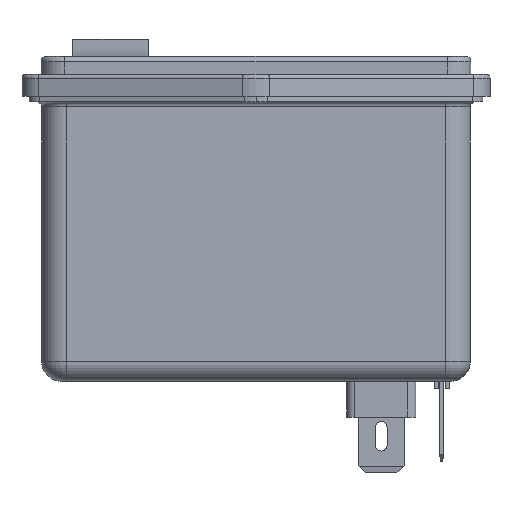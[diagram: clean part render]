
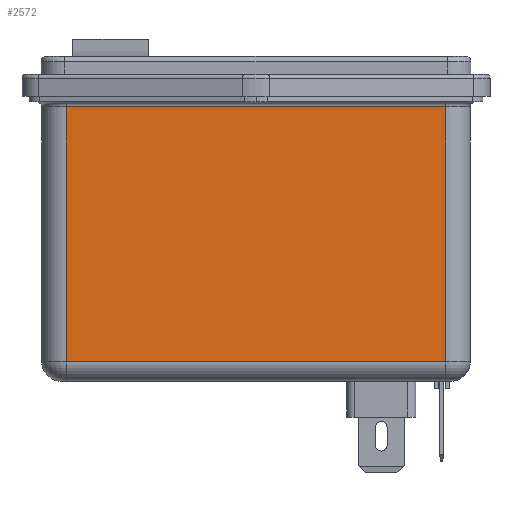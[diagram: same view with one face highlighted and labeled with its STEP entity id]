
A CAD part, left-side view. The second image highlights one B-rep face of the part: STEP entity #2572.
In plain terms, the highlighted planar face has unit normal (-1, 0, 0).
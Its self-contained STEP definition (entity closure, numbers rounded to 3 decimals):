
#2572 = ADVANCED_FACE ( 'NONE', ( #9399 ), #9398, .T. ) ;
#2573 = EDGE_LOOP ( 'NONE', ( #2574, #2578, #2581, #2642 ) ) ;
#2574 = ORIENTED_EDGE ( 'NONE', *, *, #2575, .T. ) ;
#2575 = EDGE_CURVE ( 'NONE', #2576, #2577, #9396, .T. ) ;
#2576 = VERTEX_POINT ( 'NONE', #9451 ) ;
#2577 = VERTEX_POINT ( 'NONE', #9450 ) ;
#2578 = ORIENTED_EDGE ( 'NONE', *, *, #2579, .T. ) ;
#2579 = EDGE_CURVE ( 'NONE', #2577, #2580, #9449, .T. ) ;
#2580 = VERTEX_POINT ( 'NONE', #9445 ) ;
#2581 = ORIENTED_EDGE ( 'NONE', *, *, #2641, .T. ) ;
#2582 = VERTEX_POINT ( 'NONE', #9444 ) ;
#2641 = EDGE_CURVE ( 'NONE', #2580, #2582, #9538, .T. ) ;
#2642 = ORIENTED_EDGE ( 'NONE', *, *, #2643, .T. ) ;
#2643 = EDGE_CURVE ( 'NONE', #2582, #2576, #9534, .T. ) ;
#9392 = CARTESIAN_POINT ( 'NONE',  ( -14.4, -26.35, -38.8 ) ) ;
#9393 = DIRECTION ( 'NONE',  ( 0., -1., 0. ) ) ;
#9394 = DIRECTION ( 'NONE',  ( -1., 0., 0. ) ) ;
#9395 = AXIS2_PLACEMENT_3D ( 'NONE', #9397, #9394, #9393 ) ;
#9396 = LINE ( 'NONE', #9392, #9453 ) ;
#9397 = CARTESIAN_POINT ( 'NONE',  ( -14.4, 29.75, -38.8 ) ) ;
#9398 = PLANE ( 'NONE',  #9395 ) ;
#9399 = FACE_OUTER_BOUND ( 'NONE', #2573, .T. ) ;
#9444 = CARTESIAN_POINT ( 'NONE',  ( -14.4, 26.35, -36.1 ) ) ;
#9445 = CARTESIAN_POINT ( 'NONE',  ( -14.4, 26.35, -0.7 ) ) ;
#9446 = DIRECTION ( 'NONE',  ( 0., 1., 0. ) ) ;
#9447 = VECTOR ( 'NONE', #9446, 1000. ) ;
#9448 = CARTESIAN_POINT ( 'NONE',  ( -14.4, 29.75, -0.7 ) ) ;
#9449 = LINE ( 'NONE', #9448, #9447 ) ;
#9450 = CARTESIAN_POINT ( 'NONE',  ( -14.4, -26.35, -0.7 ) ) ;
#9451 = CARTESIAN_POINT ( 'NONE',  ( -14.4, -26.35, -36.1 ) ) ;
#9452 = DIRECTION ( 'NONE',  ( 0., 0., 1. ) ) ;
#9453 = VECTOR ( 'NONE', #9452, 1000. ) ;
#9531 = DIRECTION ( 'NONE',  ( 0., -1., 0. ) ) ;
#9532 = VECTOR ( 'NONE', #9531, 1000. ) ;
#9533 = CARTESIAN_POINT ( 'NONE',  ( -14.4, -29.75, -36.1 ) ) ;
#9534 = LINE ( 'NONE', #9533, #9532 ) ;
#9535 = DIRECTION ( 'NONE',  ( 0., 0., -1. ) ) ;
#9536 = VECTOR ( 'NONE', #9535, 1000. ) ;
#9537 = CARTESIAN_POINT ( 'NONE',  ( -14.4, 26.35, -38.8 ) ) ;
#9538 = LINE ( 'NONE', #9537, #9536 ) ;
